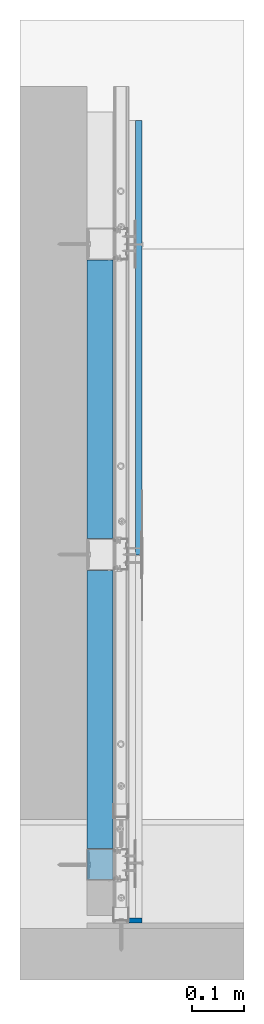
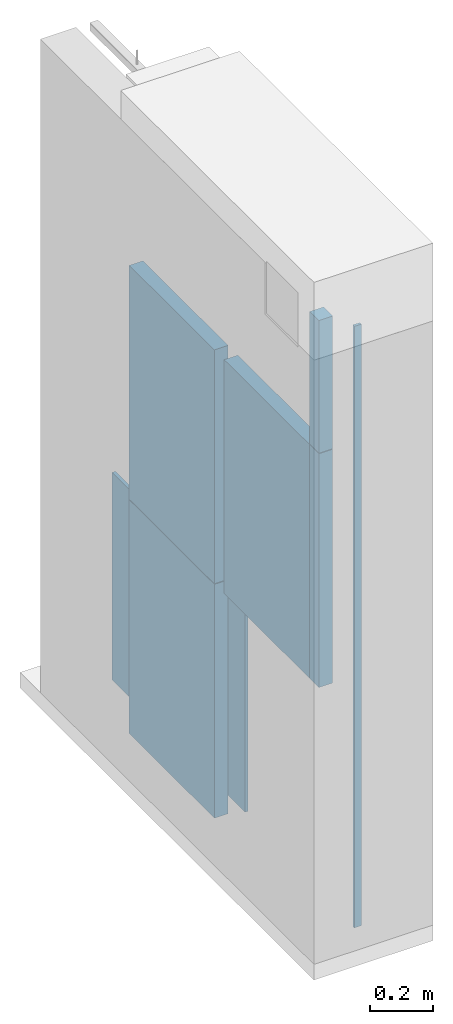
# One storey, part 4 of 62: 6 walls.
"""IFC2X3 building model written with IfcOpenShell, lengths in millimetres."""

from ifc_helpers import new_model, si_unit, frame, origin_with_axes, place, context, subcontext, project, spatial, faceted_brep, material, type_object, element, save


model = new_model("IFC2X3")

# Units and contexts
model_context = context("Model", 3, world=origin_with_axes())
body_context = subcontext(model_context, "Body", "Model", "MODEL_VIEW")
ifc_project = project(units=[si_unit("LENGTHUNIT", "METRE", prefix="MILLI"), si_unit("AREAUNIT", "SQUARE_METRE"), si_unit("VOLUMEUNIT", "CUBIC_METRE")], contexts=[model_context])

# Site, building, storey
site_placement = place(None, frame((2152.14102611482, -2015.0250894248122, 57.61556563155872), z_axis=(0.0, 0.0, 1.0), x_axis=(-1.1102230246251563e-16, 1.0, 0.0)))
site = spatial("IfcSite", under=ifc_project, at=site_placement, Name="Default Site", CompositionType="ELEMENT")
building_placement = place(site_placement, origin_with_axes())
building = spatial("IfcBuilding", under=site, at=building_placement, Name="Default Building", CompositionType="ELEMENT")
storey_placement = place(building_placement, origin_with_axes())
storey = spatial("IfcBuildingStorey", under=building, at=storey_placement, Name="Default Building Storey", CompositionType="ELEMENT", Elevation=57.61556563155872)

# Walls
ifc_material_1 = material(Name="Undefined")
wall_type_1 = type_object("IfcWallType", Name="Wypełnienie z wełny mineralnej szklanej ISOVER#5", PredefinedType="NOTDEFINED")
for number, where, z_axis, x_axis, name in (
    (1, (2702.576545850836, 5350.424146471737, -7.9000002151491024), (0.0, 0.0, 1.0), (-1.0, 4.718447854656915e-16, 0.0), "Wypełnienie z wełny mineralnej szklanej ISOVER"),
    (2, (2702.576545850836, 5350.424146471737, 895.3595813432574), (0.0, 0.0, 1.0), (-1.0, 4.718447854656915e-16, 0.0), "Wypełnienie z wełny mineralnej szklanej ISOVER"),
    (3, (2102.576545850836, 5350.424146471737, 895.3595813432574), (0.0, 0.0, 1.0), (-1.0, 4.718447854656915e-16, 0.0), "Wypełnienie z wełny mineralnej szklanej ISOVER"),
):
    element("IfcWall", number, at=place(storey_placement, frame(where, z_axis=z_axis, x_axis=x_axis)), inside=storey, type_object=wall_type_1, material=ifc_material_1, Name=name, context=body_context, shape_type="Brep", body=[
        faceted_brep([(-166.46054244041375, 3328.2832634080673, 10.28402615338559), (-166.46054244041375, 3378.2831687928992, 10.28402615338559), (-166.46054244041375, 3378.2831687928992, 911.5436077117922), (-166.46054244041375, 3328.2832634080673, 911.5436077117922), (-704.4605239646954, 3378.2831687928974, 911.5436077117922), (-704.4605239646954, 3378.2831687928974, 10.28402615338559), (-704.4605239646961, 3328.283263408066, 10.28402615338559), (-704.4605239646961, 3328.283263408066, 911.5436077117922)], [[[0, 1, 2, 3]], [[4, 2, 1, 5]], [[5, 1, 0, 6]], [[6, 0, 3, 7]]]),
        faceted_brep([(-704.4605239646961, 3328.283263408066, 911.5436077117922), (-704.4605239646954, 3378.2831687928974, 911.5436077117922), (-704.4605239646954, 3378.2831687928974, 10.28402615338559), (-704.4605239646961, 3328.283263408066, 10.28402615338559), (-166.46054244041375, 3328.2832634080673, 911.5436077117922), (-166.46054244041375, 3378.2831687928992, 911.5436077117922)], [[[0, 1, 2, 3]], [[0, 4, 5, 1]]]),
    ])
ifc_material_2 = material(Name="Undefined7")
wall_type_2 = type_object("IfcWallType", Name="Płyta gipsowo-kartonowa RIGIPS PRO (4PRO™)#5", PredefinedType="NOTDEFINED")
wall_1_placement = place(storey_placement, frame((2836.5063704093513, 1928.6800775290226, 1062.3900398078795), z_axis=(0.0, 0.0, 1.0), x_axis=(1.0, 0.0, 0.0)))
element("IfcWall", 4, at=wall_1_placement, inside=storey, type_object=wall_type_2, material=ifc_material_2, Name="Płyta gipsowo-kartonowa RIGIPS PRO (4PRO™)", context=body_context, shape_type="Brep", body=[
    faceted_brep([(840.534246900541, -12.500000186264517, -1050.001621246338), (840.534246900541, 1.6206911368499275e-10, -1050.001621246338), (840.534246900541, 2.5772237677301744e-10, -250.0), (840.534246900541, -12.500000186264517, -250.0), (45.00000178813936, -12.500000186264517, -250.0), (45.00000178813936, -12.500000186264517, -1050.001621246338), (41.00000113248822, -11.500000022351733, -1050.001621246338), (41.00000113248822, -11.500000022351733, -250.0), (1.0000000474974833, -11.500000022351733, -1050.001621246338), (1.0000000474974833, -11.500000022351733, -250.0), (0.7411809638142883, -11.465925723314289, -1050.001621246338), (0.7411809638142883, -11.465925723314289, -250.0), (0.5000000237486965, -11.366025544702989, -1050.001621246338), (0.5000000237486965, -11.366025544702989, -250.0), (0.2928932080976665, -11.207106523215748, -1050.001621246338), (0.2928932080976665, -11.207106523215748, -250.0), (0.13397459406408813, -10.999999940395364, -1050.001621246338), (0.13397459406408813, -10.999999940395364, -250.0), (0.03407417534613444, -10.758819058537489, -1050.001621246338), (0.03407417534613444, -10.758819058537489, -250.0), (-3.9705128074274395e-12, -10.49999985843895, -1050.001621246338), (-3.9705128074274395e-12, -10.49999985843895, -250.0), (0.0, 0.0, -1050.001621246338), (0.0, 0.0, -250.0)], [[[0, 1, 2, 3]], [[4, 5, 0, 3]], [[6, 5, 4, 7]], [[8, 6, 7, 9]], [[10, 8, 9, 11]], [[12, 10, 11, 13]], [[14, 12, 13, 15]], [[16, 14, 15, 17]], [[18, 16, 17, 19]], [[20, 18, 19, 21]], [[22, 20, 21, 23]], [[23, 2, 1, 22]], [[6, 8, 10, 12, 14, 16, 18, 20, 22, 1, 0, 5]], [[23, 21, 19, 17, 15, 13, 11, 9, 7, 4, 3, 2]]]),
])
ifc_material_3 = material(Name="Undefined5")
wall_type_3 = type_object("IfcWallType", Name="Masa szpachlowa konstrukcyjna RIGIPS#1", PredefinedType="NOTDEFINED")
wall_2_placement = place(storey_placement, frame((2135.029481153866, 1940.826247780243, 235.27306068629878), z_axis=(-1.0, 6.389333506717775e-13, -4.718447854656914e-16), x_axis=(4.718447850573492e-16, -6.390998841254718e-13, -1.0)))
element("IfcWall", 5, at=wall_2_placement, inside=storey, type_object=wall_type_3, material=ifc_material_3, Name="Masa szpachlowa konstrukcyjna RIGIPS", context=body_context, shape_type="Brep", body=[
    faceted_brep([(232.8890347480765, 24.64617043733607, -5.639932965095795e-14), (232.8890347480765, -0.34999999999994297, -5.780931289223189e-14), (-2085.121373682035, -0.3499999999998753, -5.4989346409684e-14), (-2085.1213736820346, 24.64617043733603, -5.4989346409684e-14), (232.88903474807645, -0.3499999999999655, 10.00439262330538), (-2085.121373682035, -0.3499999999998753, 10.00439262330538), (232.88903474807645, 24.646170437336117, 10.004392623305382), (-2085.1213736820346, 24.64617043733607, 10.00439262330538)], [[[0, 1, 2, 3]], [[1, 4, 5, 2]], [[4, 6, 7, 5]], [[6, 0, 3, 7]], [[7, 3, 2, 5]], [[0, 6, 4, 1]]]),
])
ifc_material_4 = material(Name="Default")
wall_type_4 = type_object("IfcWallType", Name="Wypełnienie z wełny mineralnej szklanej ISOVER#12", PredefinedType="NOTDEFINED")
wall_3_placement = place(storey_placement, frame((2041.0623067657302, 5350.424146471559, 895.3595813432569), z_axis=(0.0, 0.0, 1.0), x_axis=(-1.0, 4.718447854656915e-16, 0.0)))
element("IfcWall", 6, at=wall_3_placement, inside=storey, type_object=wall_type_4, material=ifc_material_4, Name="Wypełnienie z wełny mineralnej szklanej ISOVER", context=body_context, shape_type="Brep", body=[
    faceted_brep([(-168.12478005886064, 3328.2832634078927, 10.568294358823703), (-168.12478005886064, 3328.2832634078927, 911.5436077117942), (-225.97478152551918, 3328.2832634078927, 911.5436077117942), (-225.97478152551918, 3328.2832634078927, 10.568294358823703), (-168.124780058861, 3378.283168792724, 10.568294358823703), (-168.124780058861, 3378.283168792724, 911.5436077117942), (-225.97478152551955, 3378.283168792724, 911.5436077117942), (-225.97478152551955, 3378.283168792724, 10.568294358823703)], [[[0, 1, 2, 3]], [[0, 4, 5, 1]], [[6, 5, 4, 7]], [[7, 4, 0, 3]]]),
    faceted_brep([(-225.97478152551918, 3328.2832634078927, 911.5436077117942), (-225.97478152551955, 3378.283168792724, 911.5436077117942), (-225.97478152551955, 3378.283168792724, 10.568294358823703), (-225.97478152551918, 3328.2832634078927, 10.568294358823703), (-168.12478005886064, 3328.2832634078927, 911.5436077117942), (-168.124780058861, 3378.283168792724, 911.5436077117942)], [[[0, 1, 2, 3]], [[1, 0, 4, 5]]]),
    faceted_brep([(-168.12478005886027, 3328.2832634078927, 913.5436077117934), (-168.12478005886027, 3328.2832634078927, 1425.0348530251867), (-225.97478152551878, 3328.2832634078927, 1425.0348530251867), (-225.97478152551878, 3328.2832634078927, 913.5436077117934), (-168.12478005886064, 3378.283168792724, 913.5436077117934), (-168.12478005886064, 3378.283168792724, 1425.0348530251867), (-225.97478152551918, 3378.283168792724, 1425.0348530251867), (-225.97478152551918, 3378.283168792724, 913.5436077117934)], [[[0, 1, 2, 3]], [[0, 4, 5, 1]], [[6, 5, 4, 7]], [[7, 4, 0, 3]]]),
    faceted_brep([(-225.97478152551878, 3328.2832634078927, 1425.0348530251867), (-225.97478152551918, 3378.283168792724, 1425.0348530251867), (-225.97478152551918, 3378.283168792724, 913.5436077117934), (-225.97478152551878, 3328.2832634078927, 913.5436077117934), (-168.12478005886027, 3328.2832634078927, 1425.0348530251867), (-168.12478005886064, 3378.283168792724, 1425.0348530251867)], [[[0, 1, 2, 3]], [[1, 0, 4, 5]]]),
])

save(model, "model.ifc")
